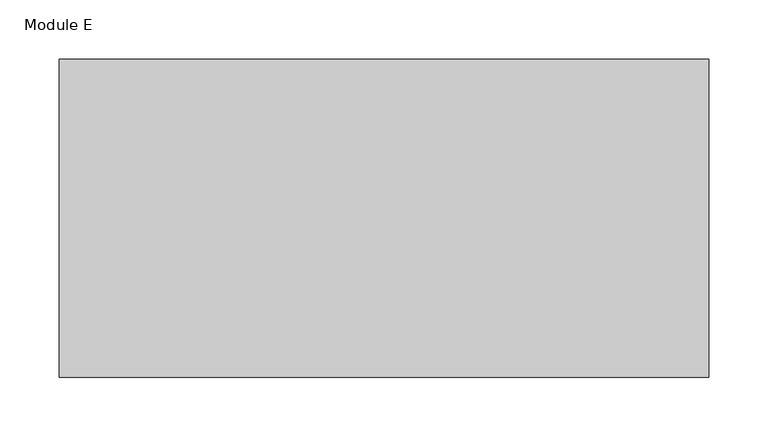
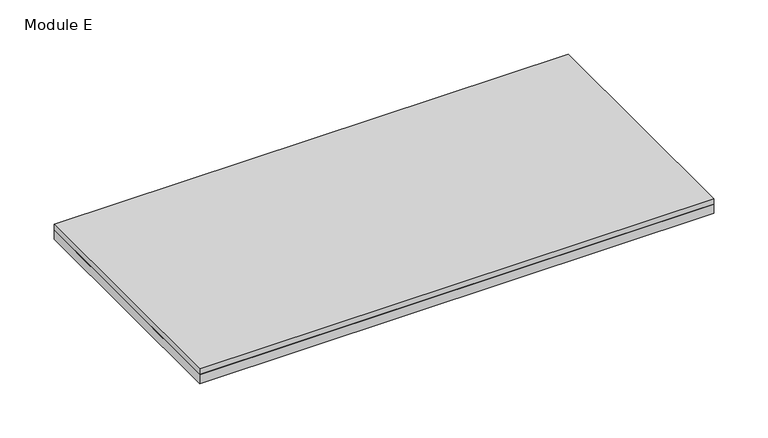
"""IFC4 building model written with IfcOpenShell, lengths in millimetres: proxy geometry, Spinneybeck_Wave : Module E."""

from ifc_helpers import new_model, si_unit, frame, origin, origin_with_axes, place, context, project, spatial, polyline, outline, extrude, source, transform, mapped, element, save


def module_e_903068e9(model_context):
    return source(origin(), model_context, "Body", "SweptSolid", [
        extrude(outline(polyline([(0.0, -134.0996528), (-547.37, -134.0996528), (-547.37, 134.0996528), (0.0, 134.0996528), (0.0, -134.0996528)])), origin_with_axes(), (0.0, 0.0, 1.0), 10.0210938),
        extrude(outline(polyline([(-547.37, -134.0996528), (-547.37, 134.0996528), (0.0, 134.0996528), (0.0, -134.0996528), (-547.37, -134.0996528)])), frame((0.0, 0.0, 10.0210938), z_axis=(0.0, 0.0, 1.0), x_axis=(1.0, 0.0, 0.0)), (0.0, 0.0, 1.0), 6.35),
    ])


if __name__ == "__main__":
    model = new_model("IFC4")
    model_context = context("Model", 3, world=origin())
    ifc_project = project(units=[si_unit("LENGTHUNIT", "METRE", prefix="MILLI")], contexts=[model_context])
    site = spatial("IfcSite", under=ifc_project)
    building = spatial("IfcBuilding", under=site)
    placement = place(None, origin())
    module_e_shape = module_e_903068e9(model_context)
    element("IfcBuildingElementProxy", 1, Name="Spinneybeck_Wave : Module E", ObjectType="Spinneybeck_Wave : Module E", at=placement, inside=building, context=model_context, shape_type="MappedRepresentation", body=[
        mapped(module_e_shape, transform((0.0, 0.0, 0.0), x_axis=(1.0, 0.0, 0.0), y_axis=(0.0, 1.0, 0.0), z_axis=(0.0, 0.0, 1.0))),
    ])
    save(model, "model.ifc")
